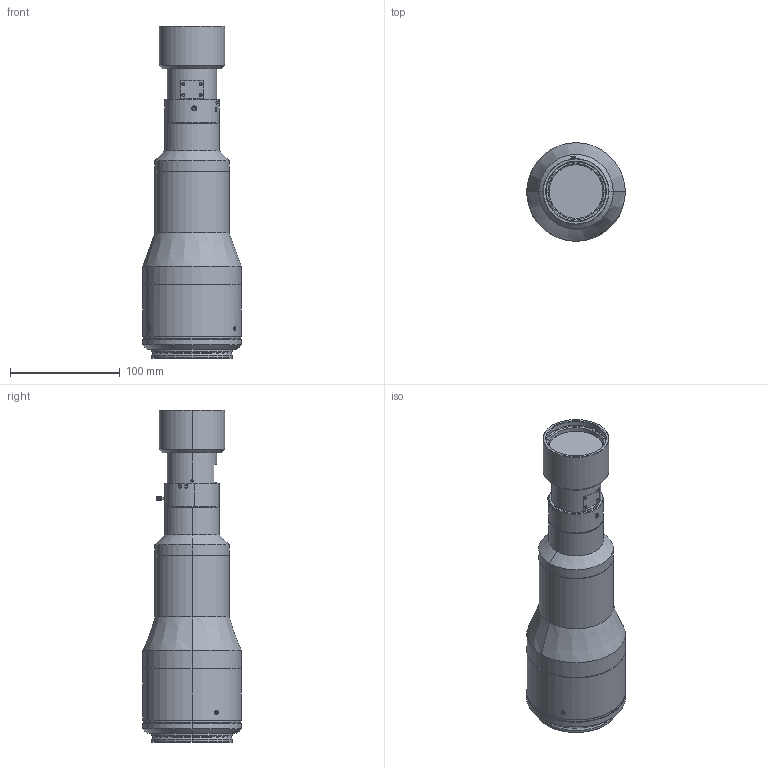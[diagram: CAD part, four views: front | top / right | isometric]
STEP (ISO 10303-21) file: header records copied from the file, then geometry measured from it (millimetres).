
FILE_DESCRIPTION (( 'STEP AP203' ), '1' );
FILE_NAME ('A22583A0000101A.STEP', '2016-11-30T06:16:07', ( '' ), ( '' ), 'SwSTEP 2.0', 'SolidWorks 2014', '' );
FILE_SCHEMA (( 'CONFIG_CONTROL_DESIGN' ));
Length unit declared in the file: millimetre
Products named in the file (1): A22583A0000101A
Bounding box: 90 x 90 x 303.14 mm (x, y, z)
Volume: 1065530.9 mm3; surface area: 84798.8 mm2
Topology: 1 solids, 1 shells, 432 faces, 1117 edges, 718 vertices
Faces by surface type: cylinder 171, plane 139, cone 84, bspline 36, torus 2
Entity records: 21282 total; most frequent: CARTESIAN_POINT 11436, ORIENTED_EDGE 2218, DIRECTION 1751, EDGE_CURVE 1109, VERTEX_POINT 718, AXIS2_PLACEMENT_3D 673, EDGE_LOOP 471, ADVANCED_FACE 432
